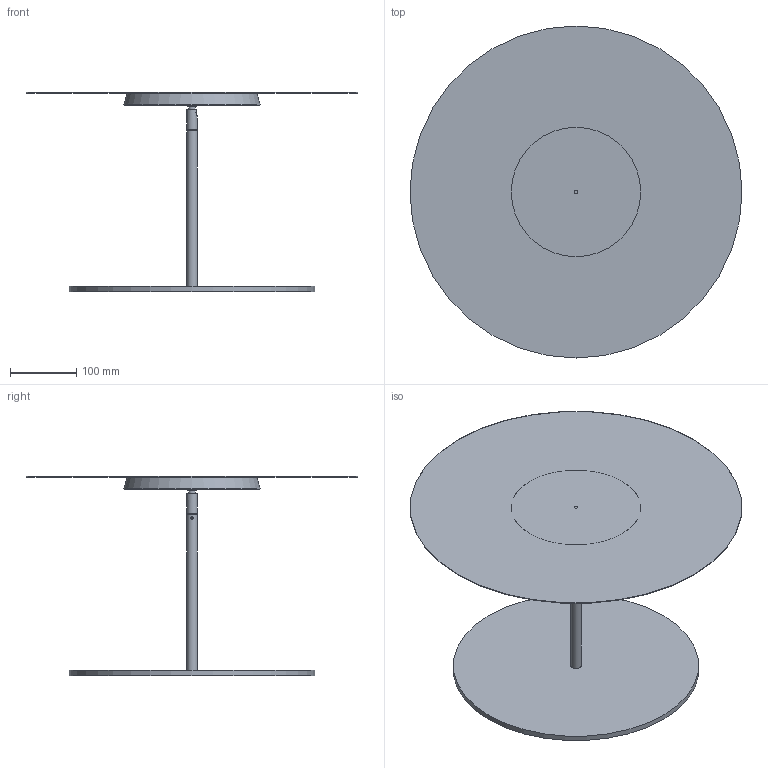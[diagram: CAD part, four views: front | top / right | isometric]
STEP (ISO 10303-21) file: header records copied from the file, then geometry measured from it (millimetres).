
FILE_DESCRIPTION(/* description */ (''),/* implementation_level */ '2;1');
FILE_NAME(/* name */ 'X:\PUBBLICA\X ALBERTO ZANARDI\FILE 3D X SITO\CALVINO\1948 - CALVINO.stp',/* time_stamp */ '2020-02-21T11:11:21+01:00',/* author */ ('AC'),/* organization */ (''),/* preprocessor_version */ 'ST-DEVELOPER v18',/* originating_system */ 'Autodesk Inventor 2020',/* authorisation */ '');
FILE_SCHEMA (('AUTOMOTIVE_DESIGN { 1 0 10303 214 3 1 1 }'));
Length unit declared in the file: millimetre
Products named in the file (1): Parte1
Bounding box: 500 x 500 x 300 mm (x, y, z)
Volume: 1419013 mm3; surface area: 714486.7 mm2
Topology: 3 solids, 6 shells, 56 faces, 110 edges, 77 vertices
Faces by surface type: plane 27, cylinder 21, cone 6, bspline 1, sphere 1
Full cylindrical faces by diameter (mm): 2.459 x1, 5 x2, 6 x1, 8.917 x1, 10 x1, 12.4 x1, 13 x1, 16 x3, 28.5 x1, 29.7 x1, 120 x1, 194.5 x1, 370 x1, 500 x1
Entity records: 1877 total; most frequent: CARTESIAN_POINT 520, DIRECTION 276, ORIENTED_EDGE 220, AXIS2_PLACEMENT_3D 118, EDGE_CURVE 110, VERTEX_POINT 77, EDGE_LOOP 69, CIRCLE 62
